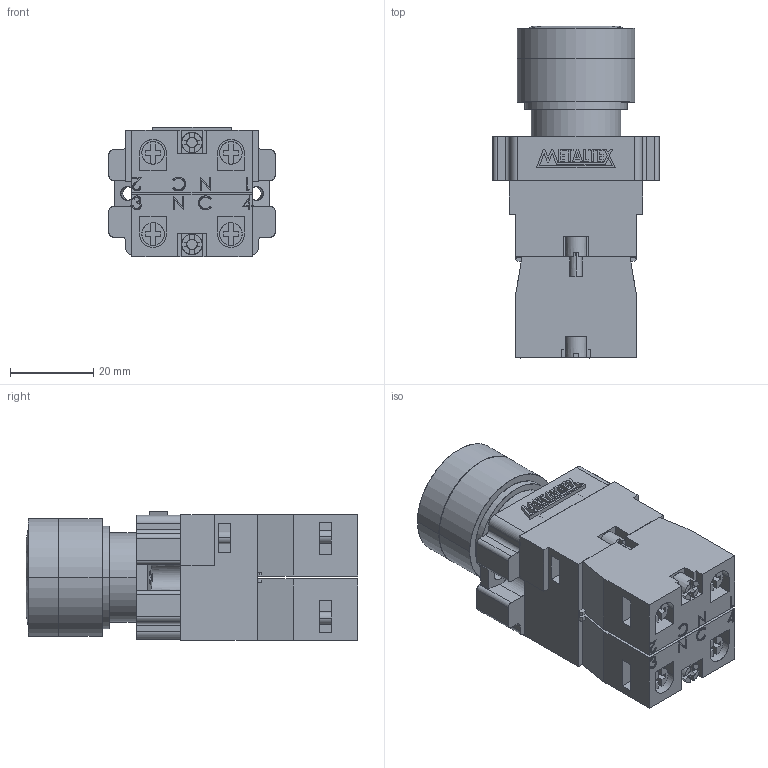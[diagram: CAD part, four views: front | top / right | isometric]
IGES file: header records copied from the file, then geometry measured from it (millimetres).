
Start section: SolidWorks IGES file using analytic representation for surfaces
Global section: file name: D:\X - Arquivos\PROEX\Empresas\P11 - METALTEX\01 - Produtos\IGES\Primeira remessa\M20IGR-G-1C.IGS; native system: SolidWorks 2012; preprocessor: SolidWorks 2012; author: Usuario; date: 180117.115017; units: millimetre
Bounding box: 40 x 79.97 x 31.2 mm (x, y, z)
Surface area: 22194.2 mm2 (no closed solid volume)
Topology: 0 solids, 0 shells, 683 faces, 7700 edges, 7698 vertices
Faces by surface type: bspline 543, revolution 140
